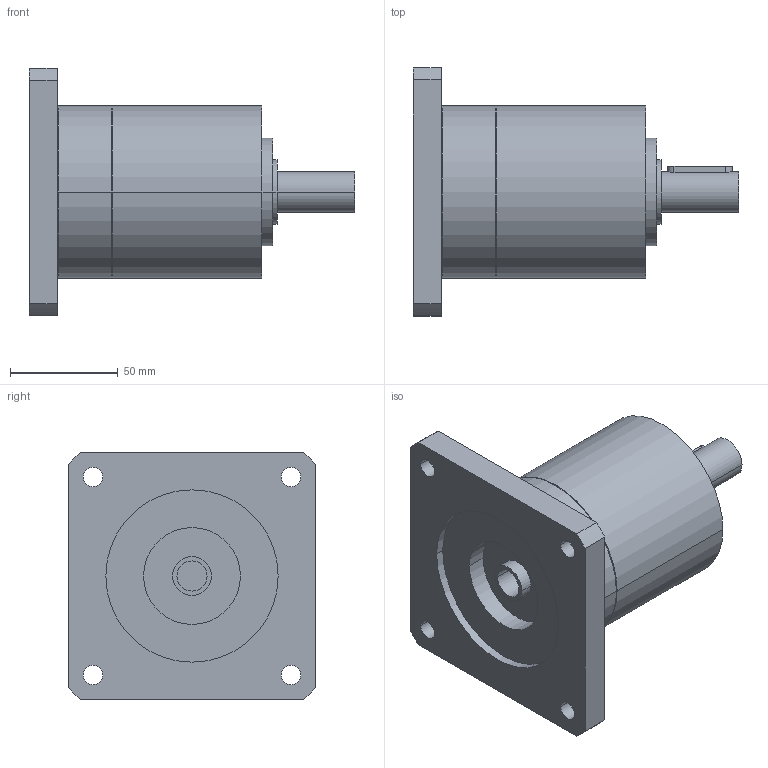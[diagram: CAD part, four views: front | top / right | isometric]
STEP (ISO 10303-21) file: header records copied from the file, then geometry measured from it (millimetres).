
FILE_DESCRIPTION(('CoCreate Modeling STEP Export'),'2;1');
FILE_NAME('GPR100_ig-3-4-5-6_19_B14_14_P30.stp','2014-08-26T10:07:26',(''),(''),'CoCreate Modeling STEP processor for AP214 (Solid Model)','CoCreate Modeling 16.00C 25-Feb-2009 (C) Parametric Technology GmbH','');
FILE_SCHEMA(('AUTOMOTIVE_DESIGN { 1 0 10303 214 1 1 1 1 }'));
Length unit declared in the file: millimetre
Products named in the file (2): GPR100_ig-3-4-5-6_19_B14_14_P30
Assembly tree (1 placements, depth 2):
  GPR100_ig-3-4-5-6_19_B14_14_P30
    GPR100_ig-3-4-5-6_19_B14_14_P30
Bounding box: 151 x 115 x 115 mm (x, y, z)
Volume: 627831.8 mm3; surface area: 65923.3 mm2
Topology: 1 solids, 1 shells, 70 faces, 182 edges, 126 vertices
Faces by surface type: cylinder 42, plane 22, cone 6
Entity records: 1909 total; most frequent: ORIENTED_EDGE 360, CARTESIAN_POINT 354, DIRECTION 262, EDGE_CURVE 180, VERTEX_POINT 126, AXIS2_PLACEMENT_3D 98, EDGE_LOOP 92, FACE_OUTER_BOUND 70
